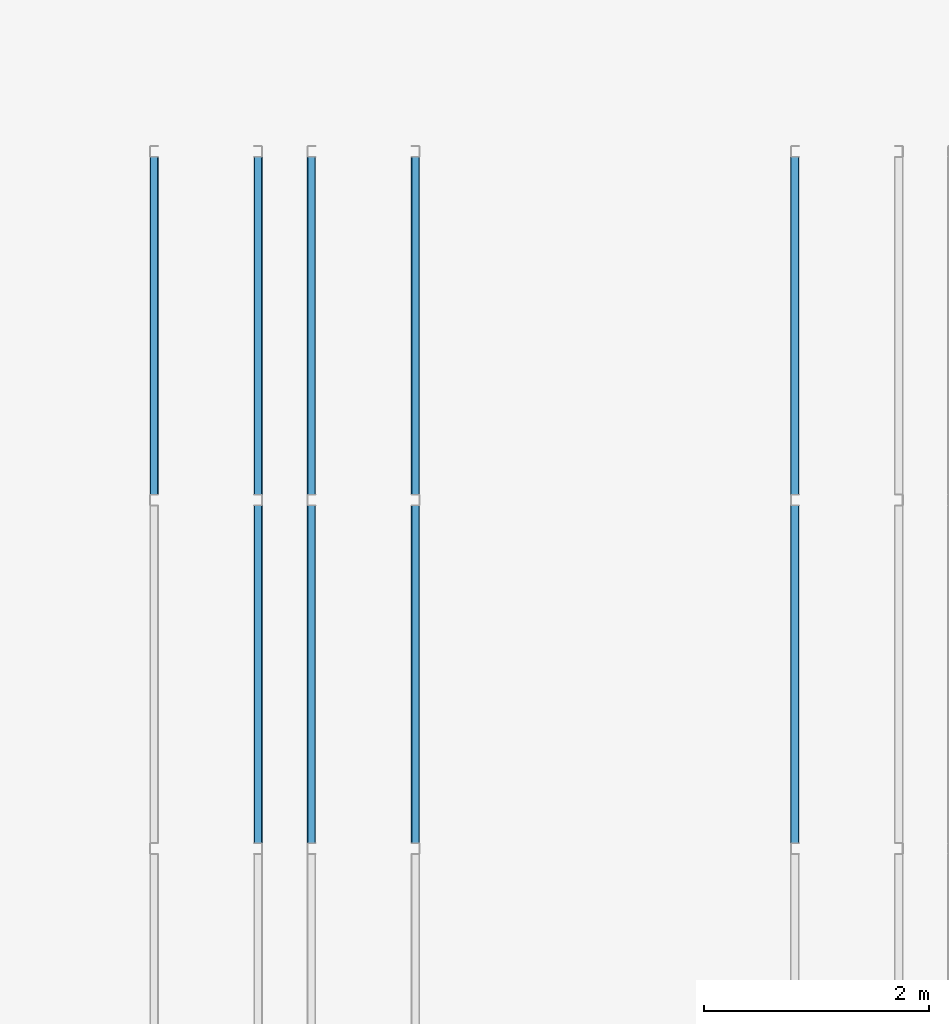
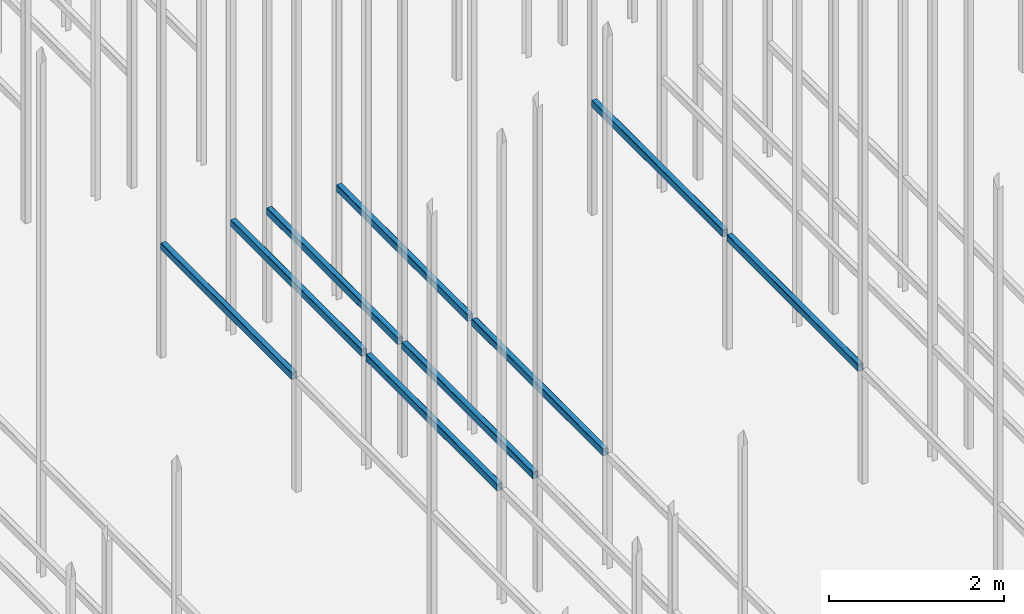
# One storey, part 151 of 302: 9 beams.
"""IFC2X3 building model written with IfcOpenShell, lengths in metres."""

import ifcopenshell
import ifcopenshell.guid

model = None  # the IFC model being written
_history = None  # IfcOwnerHistory: only IFC2X3 demands one
_inside = {}  # id of a spatial element -> (the spatial element, [elements in it])
_under = {}  # id of a project, library or spatial element -> (it, [spatial elements below it])
_declared = {}  # id of a project -> (the project, [libraries it declares])
_typed = {}  # id of a type object -> (the type object, [elements of that type])
_made_of = {}  # id of a material, layer set ... -> (it, [elements and type objects made of it])


def new_model(schema):
    """Start an empty IFC model of exactly this schema.

    Asked for "IFC4X3", IfcOpenShell would pick the latest addendum, in which some entities
    have other attributes; the version numbers below select the first issue.
    IFC2X3 requires an IfcOwnerHistory on every rooted entity: one is made here for all.
    """
    global model, _history
    if schema == "IFC4X3":
        model = ifcopenshell.file(schema_version=(4, 3, 0, 0))
    else:
        model = ifcopenshell.file(schema=schema)
    _inside.clear()
    _under.clear()
    _declared.clear()
    _typed.clear()
    _made_of.clear()
    _history = None
    if model.schema == "IFC2X3":
        org = make("IfcOrganization", Name="unknown")
        user = make(
            "IfcPersonAndOrganization",
            ThePerson=make("IfcPerson", FamilyName="unknown"),
            TheOrganization=org,
        )
        app = make(
            "IfcApplication",
            ApplicationDeveloper=org,
            Version="unknown",
            ApplicationFullName="unknown",
            ApplicationIdentifier="unknown",
        )
        _history = make(
            "IfcOwnerHistory",
            OwningUser=user,
            OwningApplication=app,
            ChangeAction="ADDED",
            CreationDate=0,
        )
    return model


def make(cls, **values):
    """One entity of the class cls with the attributes given. An attribute that is None is left unset."""
    return model.create_entity(
        cls, **{name: value for name, value in values.items() if value is not None}
    )


def entity(cls, *values):
    """Any entity or typed value of the class cls, its attributes in the order of the schema. None: left unset."""
    e = model.create_entity(cls)
    for i, value in enumerate(values):
        if value is not None:
            e[i] = value
    return e


def rooted(cls, **values):
    """An entity with a GlobalId (a new one), such as an element, a storey or a relation."""
    return make(cls, GlobalId=ifcopenshell.guid.new(), OwnerHistory=_history, **values)


def si_unit(unit_type, name, prefix=None):
    """IfcSIUnit, for example si_unit("LENGTHUNIT", "METRE", prefix="MILLI")."""
    return make("IfcSIUnit", UnitType=unit_type, Prefix=prefix, Name=name)


def converted_unit(unit_type, name, factor, base, dimensions=None, offset=None):
    """IfcConversionBasedUnit, such as the inch: factor (a typed value) times the base unit."""
    return make(
        "IfcConversionBasedUnit"
        if offset is None
        else "IfcConversionBasedUnitWithOffset",
        ConversionOffset=offset,
        Dimensions=None
        if dimensions is None
        else entity("IfcDimensionalExponents", *dimensions),
        UnitType=unit_type,
        Name=name,
        ConversionFactor=make(
            "IfcMeasureWithUnit", ValueComponent=factor, UnitComponent=base
        ),
    )


def derived_unit(unit_type, elements):
    """IfcDerivedUnit: a product of units, each with its exponent."""
    return make(
        "IfcDerivedUnit",
        Elements=[
            make("IfcDerivedUnitElement", Unit=unit, Exponent=power)
            for unit, power in elements
        ],
        UnitType=unit_type,
    )


def assignment(units):
    """IfcUnitAssignment: the units of a project."""
    return None if units is None else make("IfcUnitAssignment", Units=units)


def point(xyz):
    """IfcCartesianPoint."""
    return None if xyz is None else make("IfcCartesianPoint", Coordinates=xyz)


def direction(xyz):
    """IfcDirection."""
    return None if xyz is None else make("IfcDirection", DirectionRatios=xyz)


def frame(location, z_axis=None, x_axis=None):
    """IfcAxis2Placement3D, a coordinate frame: its origin and axes. An axis left out is left unset."""
    return make(
        "IfcAxis2Placement3D",
        Location=point(location),
        Axis=direction(z_axis),
        RefDirection=direction(x_axis),
    )


def frame_2d(location, x_axis=None):
    """IfcAxis2Placement2D, a coordinate frame in the plane: its origin and x axis."""
    return make(
        "IfcAxis2Placement2D", Location=point(location), RefDirection=direction(x_axis)
    )


def origin():
    """The frame at (0, 0, 0) with its axes left unset."""
    return frame((0.0, 0.0, 0.0))


def place(relative_to, where):
    """IfcLocalPlacement: puts the frame where relative to a parent placement (None: the world)."""
    return make(
        "IfcLocalPlacement", PlacementRelTo=relative_to, RelativePlacement=where
    )


def context(
    kind, dimensions, precision=None, world=None, true_north=None, identifier=None
):
    """IfcGeometricRepresentationContext, for example the 3D "Model" context."""
    return make(
        "IfcGeometricRepresentationContext",
        ContextIdentifier=identifier,
        ContextType=kind,
        CoordinateSpaceDimension=dimensions,
        Precision=precision,
        WorldCoordinateSystem=world,
        TrueNorth=true_north,
    )


def subcontext(parent, identifier, kind, view, scale=None):
    """IfcGeometricRepresentationSubContext, for example "Body" below "Model"."""
    return make(
        "IfcGeometricRepresentationSubContext",
        ContextIdentifier=identifier,
        ContextType=kind,
        ParentContext=parent,
        TargetScale=scale,
        TargetView=view,
    )


def project(units=None, contexts=None):
    """IfcProject with its units and contexts."""
    return rooted(
        "IfcProject",
        Name="project",
        RepresentationContexts=contexts,
        UnitsInContext=assignment(units),
    )


def spatial(cls, under=None, at=None, **own):
    """A site, building, storey or space (cls), placed at a placement, below another one or the project."""
    s = rooted(cls, ObjectPlacement=at, **own)
    if under is not None:
        _under.setdefault(under.id(), (under, []))[1].append(s)
    return s


def polyline(points):
    """IfcPolyline through the points."""
    return make("IfcPolyline", Points=[point(p) for p in points])


def circle_curve(where, radius):
    """IfcCircle in the frame where."""
    return make("IfcCircle", Position=where, Radius=radius)


def parameter(value):
    """IfcParameterValue: where a trimmed curve begins or ends, as a parameter of its basis curve."""
    return model.create_entity("IfcParameterValue", value)


def trimmed(basis, trim1, trim2, sense, master):
    """IfcTrimmedCurve: the piece of a basis curve between two trims."""
    return make(
        "IfcTrimmedCurve",
        BasisCurve=basis,
        Trim1=trim1,
        Trim2=trim2,
        SenseAgreement=sense,
        MasterRepresentation=master,
    )


def segment(curve, same_sense, transition):
    """IfcCompositeCurveSegment."""
    return make(
        "IfcCompositeCurveSegment",
        Transition=transition,
        SameSense=same_sense,
        ParentCurve=curve,
    )


def composite_curve(segments, self_intersect=None):
    """IfcCompositeCurve: segments joined end to end."""
    return make("IfcCompositeCurve", Segments=segments, SelfIntersect=self_intersect)


def outline(outer, holes=None, kind="AREA"):
    """IfcArbitraryClosedProfileDef: a profile drawn as a closed curve; with holes, ...WithVoids."""
    if holes is None:
        return make("IfcArbitraryClosedProfileDef", ProfileType=kind, OuterCurve=outer)
    return make(
        "IfcArbitraryProfileDefWithVoids",
        ProfileType=kind,
        OuterCurve=outer,
        InnerCurves=holes,
    )


def extrude(swept, where, along, depth):
    """IfcExtrudedAreaSolid: the profile swept, set in the frame where, extruded along a direction by depth."""
    return make(
        "IfcExtrudedAreaSolid",
        SweptArea=swept,
        Position=where,
        ExtrudedDirection=direction(along),
        Depth=depth,
    )


def shape(context_of_items, identifier, shape_type, items):
    """IfcShapeRepresentation: the items that make up one representation, for example the "Body"."""
    return make(
        "IfcShapeRepresentation",
        ContextOfItems=context_of_items,
        RepresentationIdentifier=identifier,
        RepresentationType=shape_type,
        Items=items,
    )


def material(Name=None, Category=None):
    """IfcMaterial."""
    return make("IfcMaterial", Name=Name, Category=Category)


def made_of(thing, what):
    """Note that an element or type object is made of a material, layer set ...; save() writes the relation."""
    if what is not None:
        _made_of.setdefault(what.id(), (what, []))[1].append(thing)
    return thing


def type_object(cls, material=None, **own):
    """A type object (cls), such as IfcWallType, which elements share."""
    return made_of(rooted(cls, **own), material)


def element(
    cls,
    number,
    at=None,
    inside=None,
    cuts=None,
    type_object=None,
    material=None,
    context=None,
    identifier="Body",
    shape_type=None,
    held_by="IfcProductDefinitionShape",
    body=None,
    shapes=None,
    **own,
):
    """One element of the class cls, such as IfcWall. Its Tag is "e" and its number.

    at: its placement. inside: the storey or other place that contains it. cuts: it is an
    opening in that element (IfcRelVoidsElement). A single representation is given by context,
    identifier, shape_type and body (its items); several are given by shapes. held_by: the class
    of the entity that holds the representations. save() writes the other relations.
    """
    e = rooted(cls, Tag="e%d" % number, ObjectPlacement=at, **own)
    if body is not None:
        shapes = [shape(context, identifier, shape_type, body)]
    if shapes is not None:
        e.Representation = make(held_by, Representations=shapes)
    if inside is not None:
        _inside.setdefault(inside.id(), (inside, []))[1].append(e)
    if cuts is not None:
        rooted(
            "IfcRelVoidsElement", RelatingBuildingElement=cuts, RelatedOpeningElement=e
        )
    if type_object is not None:
        _typed.setdefault(type_object.id(), (type_object, []))[1].append(e)
    return made_of(e, material)


def aggregate(whole, parts):
    """IfcRelAggregates: a whole, such as a stair, and the parts it consists of."""
    return rooted("IfcRelAggregates", RelatingObject=whole, RelatedObjects=parts)


def save(model, path):
    """Write the relations noted so far, then the file.

    IfcRelAggregates (storeys below a building ...), IfcRelContainedInSpatialStructure (elements
    in a storey), IfcRelDefinesByType, IfcRelAssociatesMaterial and IfcRelDeclares: one each for
    every whole, place, type object, material and project.
    """
    for whole, parts in _under.values():
        aggregate(whole, parts)
    for where, things in _inside.values():
        rooted(
            "IfcRelContainedInSpatialStructure",
            RelatedElements=things,
            RelatingStructure=where,
        )
    for kind, things in _typed.values():
        rooted("IfcRelDefinesByType", RelatedObjects=things, RelatingType=kind)
    for what, things in _made_of.values():
        rooted("IfcRelAssociatesMaterial", RelatedObjects=things, RelatingMaterial=what)
    for by, libraries in _declared.values():
        rooted("IfcRelDeclares", RelatingContext=by, RelatedDefinitions=libraries)
    model.write(path)


model = new_model("IFC2X3")

# Units and contexts
model_context = context("Model", 3, precision=1e-05, world=origin(), true_north=direction((6.12303176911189e-17, 1.0)))
body_context = subcontext(model_context, "Body", "Model", "MODEL_VIEW")
ifc_project = project(units=[si_unit("LENGTHUNIT", "METRE"), si_unit("AREAUNIT", "SQUARE_METRE"), si_unit("VOLUMEUNIT", "CUBIC_METRE"), converted_unit("PLANEANGLEUNIT", "DEGREE", entity("IfcRatioMeasure", 0.0174532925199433), si_unit("PLANEANGLEUNIT", "RADIAN"), dimensions=[0, 0, 0, 0, 0, 0, 0]), si_unit("MASSUNIT", "GRAM", prefix="KILO"), derived_unit("MASSDENSITYUNIT", [(si_unit("MASSUNIT", "GRAM", prefix="KILO"), 1), (si_unit("LENGTHUNIT", "METRE"), -3)]), derived_unit("MOMENTOFINERTIAUNIT", [(si_unit("LENGTHUNIT", "METRE"), 4)]), si_unit("TIMEUNIT", "SECOND"), si_unit("FREQUENCYUNIT", "HERTZ"), si_unit("THERMODYNAMICTEMPERATUREUNIT", "DEGREE_CELSIUS"), derived_unit("THERMALTRANSMITTANCEUNIT", [(si_unit("MASSUNIT", "GRAM", prefix="KILO"), 1), (si_unit("THERMODYNAMICTEMPERATUREUNIT", "KELVIN"), -1), (si_unit("TIMEUNIT", "SECOND"), -3)]), derived_unit("VOLUMETRICFLOWRATEUNIT", [(si_unit("LENGTHUNIT", "METRE"), 3), (si_unit("TIMEUNIT", "SECOND"), -1)]), si_unit("ELECTRICCURRENTUNIT", "AMPERE"), si_unit("ELECTRICVOLTAGEUNIT", "VOLT"), si_unit("POWERUNIT", "WATT"), si_unit("FORCEUNIT", "NEWTON", prefix="KILO"), si_unit("ILLUMINANCEUNIT", "LUX"), si_unit("LUMINOUSFLUXUNIT", "LUMEN"), si_unit("LUMINOUSINTENSITYUNIT", "CANDELA"), derived_unit("USERDEFINED", [(si_unit("MASSUNIT", "GRAM", prefix="KILO"), -1), (si_unit("LENGTHUNIT", "METRE"), -2), (si_unit("TIMEUNIT", "SECOND"), 3), (si_unit("LUMINOUSFLUXUNIT", "LUMEN"), 1)]), derived_unit("LINEARVELOCITYUNIT", [(si_unit("LENGTHUNIT", "METRE"), 1), (si_unit("TIMEUNIT", "SECOND"), -1)]), si_unit("PRESSUREUNIT", "PASCAL"), derived_unit("USERDEFINED", [(si_unit("LENGTHUNIT", "METRE"), -2), (si_unit("MASSUNIT", "GRAM", prefix="KILO"), 1), (si_unit("TIMEUNIT", "SECOND"), -2)]), derived_unit("LINEARFORCEUNIT", [(si_unit("MASSUNIT", "GRAM", prefix="KILO"), 1), (si_unit("LENGTHUNIT", "METRE"), 1), (si_unit("TIMEUNIT", "SECOND"), -2), (si_unit("LENGTHUNIT", "METRE"), -1)]), derived_unit("PLANARFORCEUNIT", [(si_unit("MASSUNIT", "GRAM", prefix="KILO"), 1), (si_unit("LENGTHUNIT", "METRE"), 1), (si_unit("TIMEUNIT", "SECOND"), -2), (si_unit("LENGTHUNIT", "METRE"), -2)])], contexts=[model_context])

# Site, building, storey
site_placement = place(None, origin())
site = spatial("IfcSite", under=ifc_project, at=site_placement, Name="Default", CompositionType="ELEMENT")
building_placement = place(site_placement, origin())
building = spatial("IfcBuilding", under=site, at=building_placement, CompositionType="ELEMENT")
storey_placement = place(building_placement, frame((0.0, 0.0, -1.3)))
storey = spatial("IfcBuildingStorey", under=building, at=storey_placement, Name="00_EG", CompositionType="ELEMENT", Elevation=-1.3)

# Beams
ifc_material = material(Name="Metall - Baustahl S235 blau")
beam_type = type_object("IfcBeamType", Name="RHS Träger (EN 10219-2):RHS 100 x 75 x 5", PredefinedType="NOTDEFINED")
beam_1_placement = place(storey_placement, frame((-189.865111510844, 39.548088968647, 2.885), z_axis=(0.0, 0.0, 1.0), x_axis=(0.0, 1.0, 0.0)))
element("IfcBeam", 1, at=beam_1_placement, inside=storey, type_object=beam_type, material=ifc_material, Name="RHS Träger (EN 10219-2):RHS 100 x 75 x 5", ObjectType="RHS Träger (EN 10219-2):RHS 100 x 75 x 5", context=body_context, shape_type="SweptSolid", body=[
    extrude(outline(composite_curve([segment(polyline([(-0.0399999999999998, -0.0375000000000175), (0.0400000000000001, -0.0375000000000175)]), True, "CONTINUOUS"), segment(trimmed(circle_curve(frame_2d((0.0399999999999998, -0.0275000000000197), x_axis=(0.0, 1.0)), 0.01), [parameter(180.0)], [parameter(270.0)], True, "PARAMETER"), True, "CONTINUOUS"), segment(polyline([(0.05, -0.0275000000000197), (0.05, 0.0274999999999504)]), True, "CONTINUOUS"), segment(trimmed(circle_curve(frame_2d((0.0399999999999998, 0.0274999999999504), x_axis=(0.0, 1.0)), 0.01), [parameter(270.0)], [parameter(4.07110999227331e-13)], True, "PARAMETER"), True, "CONTINUOUS"), segment(polyline([(0.0400000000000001, 0.0374999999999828), (-0.0399999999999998, 0.0374999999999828)]), True, "CONTINUOUS"), segment(trimmed(circle_curve(frame_2d((-0.0400000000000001, 0.0274999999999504), x_axis=(0.0, 1.0)), 0.01), [parameter(360.0)], [parameter(90.0000000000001)], True, "PARAMETER"), True, "CONTINUOUS"), segment(polyline([(-0.05, 0.0274999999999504), (-0.05, -0.0275000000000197)]), True, "CONTINUOUS"), segment(trimmed(circle_curve(frame_2d((-0.0400000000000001, -0.0275000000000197), x_axis=(0.0, 1.0)), 0.01), [parameter(90.0000000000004)], [parameter(180.0)], True, "PARAMETER"), True, "CONTINUOUS")], self_intersect=False), holes=[composite_curve([segment(trimmed(circle_curve(frame_2d((-0.0400000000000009, 0.0274999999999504), x_axis=(0.0, 1.0)), 0.005), [parameter(360.0)], [parameter(89.9999999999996)], True, "PARAMETER"), False, "CONTINUOUS"), segment(polyline([(-0.0400000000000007, 0.0324999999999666), (0.0399999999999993, 0.0324999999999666)]), True, "CONTINUOUS"), segment(trimmed(circle_curve(frame_2d((0.039999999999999, 0.0274999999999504), x_axis=(0.0, 1.0)), 0.005), [parameter(270.0)], [parameter(0.0)], True, "PARAMETER"), False, "CONTINUOUS"), segment(polyline([(0.0449999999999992, 0.0274999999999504), (0.0449999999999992, -0.0275000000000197)]), True, "CONTINUOUS"), segment(trimmed(circle_curve(frame_2d((0.039999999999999, -0.0275000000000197), x_axis=(0.0, 1.0)), 0.005), [parameter(180.0)], [parameter(269.999999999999)], True, "PARAMETER"), False, "CONTINUOUS"), segment(polyline([(0.0399999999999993, -0.0325000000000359), (-0.0400000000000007, -0.0325000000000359)]), True, "CONTINUOUS"), segment(trimmed(circle_curve(frame_2d((-0.0400000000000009, -0.0275000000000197), x_axis=(0.0, 1.0)), 0.005), [parameter(90.0000000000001)], [parameter(180.0)], True, "PARAMETER"), False, "CONTINUOUS"), segment(polyline([(-0.0450000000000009, -0.0275000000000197), (-0.0450000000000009, 0.0274999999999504)]), True, "CONTINUOUS")], self_intersect=False)]), frame((0.000100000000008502, -0.0374999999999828, -0.0500000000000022), z_axis=(1.0, 0.0, 0.0), x_axis=(0.0, 0.0, -1.0)), (0.0, 0.0, 1.0), 2.99979999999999),
])
beam_2_placement = place(storey_placement, frame((-189.315111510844, 39.548088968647, 2.885), z_axis=(0.0, 0.0, 1.0), x_axis=(0.0, 1.0, 0.0)))
element("IfcBeam", 2, at=beam_2_placement, inside=storey, type_object=beam_type, material=ifc_material, Name="RHS Träger (EN 10219-2):RHS 100 x 75 x 5", ObjectType="RHS Träger (EN 10219-2):RHS 100 x 75 x 5", context=body_context, shape_type="SweptSolid", body=[
    extrude(outline(composite_curve([segment(trimmed(circle_curve(frame_2d((-0.0274999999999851, -0.0400000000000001), x_axis=(1.0, 0.0)), 0.01), [parameter(180.0)], [parameter(270.0)], True, "PARAMETER"), True, "CONTINUOUS"), segment(polyline([(-0.0274999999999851, -0.05), (0.0274999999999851, -0.05)]), True, "CONTINUOUS"), segment(trimmed(circle_curve(frame_2d((0.0274999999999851, -0.0400000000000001), x_axis=(1.0, 0.0)), 0.01), [parameter(270.0)], [parameter(5.08888749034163e-14)], True, "PARAMETER"), True, "CONTINUOUS"), segment(polyline([(0.0375000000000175, -0.0399999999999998), (0.0375000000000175, 0.0400000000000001)]), True, "CONTINUOUS"), segment(trimmed(circle_curve(frame_2d((0.0274999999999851, 0.0399999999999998), x_axis=(1.0, 0.0)), 0.01), [parameter(360.0)], [parameter(89.9999999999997)], True, "PARAMETER"), True, "CONTINUOUS"), segment(polyline([(0.0274999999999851, 0.05), (-0.0274999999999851, 0.05)]), True, "CONTINUOUS"), segment(trimmed(circle_curve(frame_2d((-0.0274999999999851, 0.0399999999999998), x_axis=(1.0, 0.0)), 0.01), [parameter(90.0000000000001)], [parameter(180.0)], True, "PARAMETER"), True, "CONTINUOUS"), segment(polyline([(-0.0374999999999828, 0.0400000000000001), (-0.0374999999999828, -0.0399999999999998)]), True, "CONTINUOUS")], self_intersect=False), holes=[composite_curve([segment(polyline([(0.0274999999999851, -0.0450000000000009), (-0.0274999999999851, -0.0450000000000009)]), True, "CONTINUOUS"), segment(trimmed(circle_curve(frame_2d((-0.0274999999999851, -0.0400000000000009), x_axis=(1.0, 0.0)), 0.005), [parameter(180.0)], [parameter(270.0)], True, "PARAMETER"), False, "CONTINUOUS"), segment(polyline([(-0.0325000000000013, -0.0400000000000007), (-0.0325000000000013, 0.0399999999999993)]), True, "CONTINUOUS"), segment(trimmed(circle_curve(frame_2d((-0.0274999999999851, 0.039999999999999), x_axis=(1.0, 0.0)), 0.005), [parameter(90.0000000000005)], [parameter(180.0)], True, "PARAMETER"), False, "CONTINUOUS"), segment(polyline([(-0.0274999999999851, 0.0449999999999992), (0.0274999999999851, 0.0449999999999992)]), True, "CONTINUOUS"), segment(trimmed(circle_curve(frame_2d((0.0274999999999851, 0.039999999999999), x_axis=(1.0, 0.0)), 0.005), [parameter(0.0)], [parameter(90.0000000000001)], True, "PARAMETER"), False, "CONTINUOUS"), segment(polyline([(0.0325000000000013, 0.0399999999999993), (0.0325000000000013, -0.0400000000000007)]), True, "CONTINUOUS"), segment(trimmed(circle_curve(frame_2d((0.0274999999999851, -0.0400000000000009), x_axis=(1.0, 0.0)), 0.005), [parameter(270.0)], [parameter(4.07110999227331e-13)], True, "PARAMETER"), False, "CONTINUOUS")], self_intersect=False)]), frame((9.99999999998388e-05, 0.0375000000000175, -0.0500000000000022), z_axis=(1.0, 0.0, 0.0), x_axis=(0.0, -1.0, 0.0)), (0.0, 0.0, 1.0), 2.99979999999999),
])
beam_3_placement = place(storey_placement, frame((-188.465111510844, 39.548088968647, 2.885), z_axis=(0.0, 0.0, 1.0), x_axis=(0.0, 1.0, 0.0)))
element("IfcBeam", 3, at=beam_3_placement, inside=storey, type_object=beam_type, material=ifc_material, Name="RHS Träger (EN 10219-2):RHS 100 x 75 x 5", ObjectType="RHS Träger (EN 10219-2):RHS 100 x 75 x 5", context=body_context, shape_type="SweptSolid", body=[
    extrude(outline(composite_curve([segment(polyline([(-0.0399999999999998, -0.0374999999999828), (0.0400000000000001, -0.0374999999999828)]), True, "CONTINUOUS"), segment(trimmed(circle_curve(frame_2d((0.0399999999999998, -0.0274999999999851), x_axis=(0.0, 1.0)), 0.01), [parameter(180.0)], [parameter(270.0)], True, "PARAMETER"), True, "CONTINUOUS"), segment(polyline([(0.05, -0.0274999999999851), (0.05, 0.0274999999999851)]), True, "CONTINUOUS"), segment(trimmed(circle_curve(frame_2d((0.0399999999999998, 0.0274999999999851), x_axis=(0.0, 1.0)), 0.01), [parameter(270.0)], [parameter(4.07110999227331e-13)], True, "PARAMETER"), True, "CONTINUOUS"), segment(polyline([(0.0400000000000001, 0.0375000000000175), (-0.0399999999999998, 0.0375000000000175)]), True, "CONTINUOUS"), segment(trimmed(circle_curve(frame_2d((-0.0400000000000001, 0.0274999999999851), x_axis=(0.0, 1.0)), 0.01), [parameter(360.0)], [parameter(90.0000000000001)], True, "PARAMETER"), True, "CONTINUOUS"), segment(polyline([(-0.05, 0.0274999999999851), (-0.05, -0.0274999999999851)]), True, "CONTINUOUS"), segment(trimmed(circle_curve(frame_2d((-0.0400000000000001, -0.0274999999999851), x_axis=(0.0, 1.0)), 0.01), [parameter(90.0000000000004)], [parameter(180.0)], True, "PARAMETER"), True, "CONTINUOUS")], self_intersect=False), holes=[composite_curve([segment(trimmed(circle_curve(frame_2d((-0.0400000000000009, 0.0274999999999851), x_axis=(0.0, 1.0)), 0.005), [parameter(360.0)], [parameter(89.9999999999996)], True, "PARAMETER"), False, "CONTINUOUS"), segment(polyline([(-0.0400000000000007, 0.0325000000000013), (0.0399999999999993, 0.0325000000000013)]), True, "CONTINUOUS"), segment(trimmed(circle_curve(frame_2d((0.039999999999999, 0.0274999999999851), x_axis=(0.0, 1.0)), 0.005), [parameter(270.0)], [parameter(0.0)], True, "PARAMETER"), False, "CONTINUOUS"), segment(polyline([(0.0449999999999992, 0.0274999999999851), (0.0449999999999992, -0.0274999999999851)]), True, "CONTINUOUS"), segment(trimmed(circle_curve(frame_2d((0.039999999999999, -0.0274999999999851), x_axis=(0.0, 1.0)), 0.005), [parameter(180.0)], [parameter(269.999999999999)], True, "PARAMETER"), False, "CONTINUOUS"), segment(polyline([(0.0399999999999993, -0.0325000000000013), (-0.0400000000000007, -0.0325000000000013)]), True, "CONTINUOUS"), segment(trimmed(circle_curve(frame_2d((-0.0400000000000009, -0.0274999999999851), x_axis=(0.0, 1.0)), 0.005), [parameter(90.0000000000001)], [parameter(180.0)], True, "PARAMETER"), False, "CONTINUOUS"), segment(polyline([(-0.0450000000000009, -0.0274999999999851), (-0.0450000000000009, 0.0274999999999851)]), True, "CONTINUOUS")], self_intersect=False)]), frame((0.000100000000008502, -0.0375000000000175, -0.0500000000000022), z_axis=(1.0, 0.0, 0.0), x_axis=(0.0, 0.0, -1.0)), (0.0, 0.0, 1.0), 2.99979999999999),
])
beam_4_placement = place(storey_placement, frame((-185.015111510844, 39.548088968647, 2.885), z_axis=(0.0, 0.0, 1.0), x_axis=(0.0, 1.0, 0.0)))
element("IfcBeam", 4, at=beam_4_placement, inside=storey, type_object=beam_type, material=ifc_material, Name="RHS Träger (EN 10219-2):RHS 100 x 75 x 5", ObjectType="RHS Träger (EN 10219-2):RHS 100 x 75 x 5", context=body_context, shape_type="SweptSolid", body=[
    extrude(outline(composite_curve([segment(trimmed(circle_curve(frame_2d((-0.0274999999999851, -0.0400000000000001), x_axis=(1.0, 0.0)), 0.01), [parameter(180.0)], [parameter(270.0)], True, "PARAMETER"), True, "CONTINUOUS"), segment(polyline([(-0.0274999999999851, -0.05), (0.0274999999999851, -0.05)]), True, "CONTINUOUS"), segment(trimmed(circle_curve(frame_2d((0.0274999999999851, -0.0400000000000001), x_axis=(1.0, 0.0)), 0.01), [parameter(270.0)], [parameter(5.08888749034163e-14)], True, "PARAMETER"), True, "CONTINUOUS"), segment(polyline([(0.0375000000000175, -0.0399999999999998), (0.0375000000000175, 0.0400000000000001)]), True, "CONTINUOUS"), segment(trimmed(circle_curve(frame_2d((0.0274999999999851, 0.0399999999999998), x_axis=(1.0, 0.0)), 0.01), [parameter(360.0)], [parameter(89.9999999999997)], True, "PARAMETER"), True, "CONTINUOUS"), segment(polyline([(0.0274999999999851, 0.05), (-0.0274999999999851, 0.05)]), True, "CONTINUOUS"), segment(trimmed(circle_curve(frame_2d((-0.0274999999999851, 0.0399999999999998), x_axis=(1.0, 0.0)), 0.01), [parameter(90.0000000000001)], [parameter(180.0)], True, "PARAMETER"), True, "CONTINUOUS"), segment(polyline([(-0.0374999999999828, 0.0400000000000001), (-0.0374999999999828, -0.0399999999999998)]), True, "CONTINUOUS")], self_intersect=False), holes=[composite_curve([segment(polyline([(0.0274999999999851, -0.0450000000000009), (-0.0274999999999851, -0.0450000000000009)]), True, "CONTINUOUS"), segment(trimmed(circle_curve(frame_2d((-0.0274999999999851, -0.0400000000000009), x_axis=(1.0, 0.0)), 0.005), [parameter(180.0)], [parameter(270.0)], True, "PARAMETER"), False, "CONTINUOUS"), segment(polyline([(-0.0325000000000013, -0.0400000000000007), (-0.0325000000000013, 0.0399999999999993)]), True, "CONTINUOUS"), segment(trimmed(circle_curve(frame_2d((-0.0274999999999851, 0.039999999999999), x_axis=(1.0, 0.0)), 0.005), [parameter(90.0000000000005)], [parameter(180.0)], True, "PARAMETER"), False, "CONTINUOUS"), segment(polyline([(-0.0274999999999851, 0.0449999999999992), (0.0274999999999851, 0.0449999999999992)]), True, "CONTINUOUS"), segment(trimmed(circle_curve(frame_2d((0.0274999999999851, 0.039999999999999), x_axis=(1.0, 0.0)), 0.005), [parameter(0.0)], [parameter(90.0000000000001)], True, "PARAMETER"), False, "CONTINUOUS"), segment(polyline([(0.0325000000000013, 0.0399999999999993), (0.0325000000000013, -0.0400000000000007)]), True, "CONTINUOUS"), segment(trimmed(circle_curve(frame_2d((0.0274999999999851, -0.0400000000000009), x_axis=(1.0, 0.0)), 0.005), [parameter(270.0)], [parameter(4.07110999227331e-13)], True, "PARAMETER"), False, "CONTINUOUS")], self_intersect=False)]), frame((0.000100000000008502, 0.0375000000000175, -0.0500000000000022), z_axis=(1.0, 0.0, 0.0), x_axis=(0.0, -1.0, 0.0)), (0.0, 0.0, 1.0), 2.99979999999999),
])
beam_5_placement = place(storey_placement, frame((-190.715111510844, 42.648088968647, 2.885), z_axis=(0.0, 0.0, 1.0), x_axis=(0.0, 1.0, 0.0)))
element("IfcBeam", 5, at=beam_5_placement, inside=storey, type_object=beam_type, material=ifc_material, Name="RHS Träger (EN 10219-2):RHS 100 x 75 x 5", ObjectType="RHS Träger (EN 10219-2):RHS 100 x 75 x 5", context=body_context, shape_type="SweptSolid", body=[
    extrude(outline(composite_curve([segment(trimmed(circle_curve(frame_2d((-0.0274999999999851, -0.0400000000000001), x_axis=(1.0, 0.0)), 0.01), [parameter(180.0)], [parameter(270.0)], True, "PARAMETER"), True, "CONTINUOUS"), segment(polyline([(-0.0274999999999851, -0.05), (0.0274999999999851, -0.05)]), True, "CONTINUOUS"), segment(trimmed(circle_curve(frame_2d((0.0274999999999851, -0.0400000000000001), x_axis=(1.0, 0.0)), 0.01), [parameter(270.0)], [parameter(5.08888749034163e-14)], True, "PARAMETER"), True, "CONTINUOUS"), segment(polyline([(0.0375000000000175, -0.0399999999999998), (0.0375000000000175, 0.0400000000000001)]), True, "CONTINUOUS"), segment(trimmed(circle_curve(frame_2d((0.0274999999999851, 0.0399999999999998), x_axis=(1.0, 0.0)), 0.01), [parameter(360.0)], [parameter(89.9999999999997)], True, "PARAMETER"), True, "CONTINUOUS"), segment(polyline([(0.0274999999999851, 0.05), (-0.0274999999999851, 0.05)]), True, "CONTINUOUS"), segment(trimmed(circle_curve(frame_2d((-0.0274999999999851, 0.0399999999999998), x_axis=(1.0, 0.0)), 0.01), [parameter(90.0000000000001)], [parameter(180.0)], True, "PARAMETER"), True, "CONTINUOUS"), segment(polyline([(-0.0374999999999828, 0.0400000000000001), (-0.0374999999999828, -0.0399999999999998)]), True, "CONTINUOUS")], self_intersect=False), holes=[composite_curve([segment(polyline([(0.0274999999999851, -0.0450000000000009), (-0.0274999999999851, -0.0450000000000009)]), True, "CONTINUOUS"), segment(trimmed(circle_curve(frame_2d((-0.0274999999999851, -0.0400000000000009), x_axis=(1.0, 0.0)), 0.005), [parameter(180.0)], [parameter(270.0)], True, "PARAMETER"), False, "CONTINUOUS"), segment(polyline([(-0.0325000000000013, -0.0400000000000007), (-0.0325000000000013, 0.0399999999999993)]), True, "CONTINUOUS"), segment(trimmed(circle_curve(frame_2d((-0.0274999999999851, 0.039999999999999), x_axis=(1.0, 0.0)), 0.005), [parameter(90.0000000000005)], [parameter(180.0)], True, "PARAMETER"), False, "CONTINUOUS"), segment(polyline([(-0.0274999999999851, 0.0449999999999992), (0.0274999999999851, 0.0449999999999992)]), True, "CONTINUOUS"), segment(trimmed(circle_curve(frame_2d((0.0274999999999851, 0.039999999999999), x_axis=(1.0, 0.0)), 0.005), [parameter(0.0)], [parameter(90.0000000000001)], True, "PARAMETER"), False, "CONTINUOUS"), segment(polyline([(0.0325000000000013, 0.0399999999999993), (0.0325000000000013, -0.0400000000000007)]), True, "CONTINUOUS"), segment(trimmed(circle_curve(frame_2d((0.0274999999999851, -0.0400000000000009), x_axis=(1.0, 0.0)), 0.005), [parameter(270.0)], [parameter(4.07110999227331e-13)], True, "PARAMETER"), False, "CONTINUOUS")], self_intersect=False)]), frame((0.000100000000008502, 0.0375000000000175, -0.0500000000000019), z_axis=(1.0, 0.0, 0.0), x_axis=(0.0, -1.0, 0.0)), (0.0, 0.0, 1.0), 2.99979999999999),
])
beam_6_placement = place(storey_placement, frame((-189.865111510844, 42.648088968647, 2.885), z_axis=(0.0, 0.0, 1.0), x_axis=(0.0, 1.0, 0.0)))
element("IfcBeam", 6, at=beam_6_placement, inside=storey, type_object=beam_type, material=ifc_material, Name="RHS Träger (EN 10219-2):RHS 100 x 75 x 5", ObjectType="RHS Träger (EN 10219-2):RHS 100 x 75 x 5", context=body_context, shape_type="SweptSolid", body=[
    extrude(outline(composite_curve([segment(polyline([(-0.0399999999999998, -0.0375000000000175), (0.0400000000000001, -0.0375000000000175)]), True, "CONTINUOUS"), segment(trimmed(circle_curve(frame_2d((0.0399999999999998, -0.0275000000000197), x_axis=(0.0, 1.0)), 0.01), [parameter(180.0)], [parameter(270.0)], True, "PARAMETER"), True, "CONTINUOUS"), segment(polyline([(0.05, -0.0275000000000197), (0.05, 0.0274999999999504)]), True, "CONTINUOUS"), segment(trimmed(circle_curve(frame_2d((0.0399999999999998, 0.0274999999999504), x_axis=(0.0, 1.0)), 0.01), [parameter(270.0)], [parameter(4.07110999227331e-13)], True, "PARAMETER"), True, "CONTINUOUS"), segment(polyline([(0.0400000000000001, 0.0374999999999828), (-0.0399999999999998, 0.0374999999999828)]), True, "CONTINUOUS"), segment(trimmed(circle_curve(frame_2d((-0.0400000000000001, 0.0274999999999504), x_axis=(0.0, 1.0)), 0.01), [parameter(360.0)], [parameter(90.0000000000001)], True, "PARAMETER"), True, "CONTINUOUS"), segment(polyline([(-0.05, 0.0274999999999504), (-0.05, -0.0275000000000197)]), True, "CONTINUOUS"), segment(trimmed(circle_curve(frame_2d((-0.0400000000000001, -0.0275000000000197), x_axis=(0.0, 1.0)), 0.01), [parameter(90.0000000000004)], [parameter(180.0)], True, "PARAMETER"), True, "CONTINUOUS")], self_intersect=False), holes=[composite_curve([segment(trimmed(circle_curve(frame_2d((-0.0400000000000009, 0.0274999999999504), x_axis=(0.0, 1.0)), 0.005), [parameter(360.0)], [parameter(89.9999999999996)], True, "PARAMETER"), False, "CONTINUOUS"), segment(polyline([(-0.0400000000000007, 0.0324999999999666), (0.0399999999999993, 0.0324999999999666)]), True, "CONTINUOUS"), segment(trimmed(circle_curve(frame_2d((0.039999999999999, 0.0274999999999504), x_axis=(0.0, 1.0)), 0.005), [parameter(270.0)], [parameter(0.0)], True, "PARAMETER"), False, "CONTINUOUS"), segment(polyline([(0.0449999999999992, 0.0274999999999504), (0.0449999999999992, -0.0275000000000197)]), True, "CONTINUOUS"), segment(trimmed(circle_curve(frame_2d((0.039999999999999, -0.0275000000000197), x_axis=(0.0, 1.0)), 0.005), [parameter(180.0)], [parameter(269.999999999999)], True, "PARAMETER"), False, "CONTINUOUS"), segment(polyline([(0.0399999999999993, -0.0325000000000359), (-0.0400000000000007, -0.0325000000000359)]), True, "CONTINUOUS"), segment(trimmed(circle_curve(frame_2d((-0.0400000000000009, -0.0275000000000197), x_axis=(0.0, 1.0)), 0.005), [parameter(90.0000000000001)], [parameter(180.0)], True, "PARAMETER"), False, "CONTINUOUS"), segment(polyline([(-0.0450000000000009, -0.0275000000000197), (-0.0450000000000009, 0.0274999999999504)]), True, "CONTINUOUS")], self_intersect=False)]), frame((0.000100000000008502, -0.0374999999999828, -0.0500000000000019), z_axis=(1.0, 0.0, 0.0), x_axis=(0.0, 0.0, -1.0)), (0.0, 0.0, 1.0), 2.99979999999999),
])
beam_7_placement = place(storey_placement, frame((-189.315111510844, 42.648088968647, 2.885), z_axis=(0.0, 0.0, 1.0), x_axis=(0.0, 1.0, 0.0)))
element("IfcBeam", 7, at=beam_7_placement, inside=storey, type_object=beam_type, material=ifc_material, Name="RHS Träger (EN 10219-2):RHS 100 x 75 x 5", ObjectType="RHS Träger (EN 10219-2):RHS 100 x 75 x 5", context=body_context, shape_type="SweptSolid", body=[
    extrude(outline(composite_curve([segment(trimmed(circle_curve(frame_2d((-0.0274999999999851, -0.0400000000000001), x_axis=(1.0, 0.0)), 0.01), [parameter(180.0)], [parameter(270.0)], True, "PARAMETER"), True, "CONTINUOUS"), segment(polyline([(-0.0274999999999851, -0.05), (0.0274999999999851, -0.05)]), True, "CONTINUOUS"), segment(trimmed(circle_curve(frame_2d((0.0274999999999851, -0.0400000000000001), x_axis=(1.0, 0.0)), 0.01), [parameter(270.0)], [parameter(5.08888749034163e-14)], True, "PARAMETER"), True, "CONTINUOUS"), segment(polyline([(0.0375000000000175, -0.0399999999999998), (0.0375000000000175, 0.0400000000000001)]), True, "CONTINUOUS"), segment(trimmed(circle_curve(frame_2d((0.0274999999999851, 0.0399999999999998), x_axis=(1.0, 0.0)), 0.01), [parameter(360.0)], [parameter(89.9999999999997)], True, "PARAMETER"), True, "CONTINUOUS"), segment(polyline([(0.0274999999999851, 0.05), (-0.0274999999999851, 0.05)]), True, "CONTINUOUS"), segment(trimmed(circle_curve(frame_2d((-0.0274999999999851, 0.0399999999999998), x_axis=(1.0, 0.0)), 0.01), [parameter(90.0000000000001)], [parameter(180.0)], True, "PARAMETER"), True, "CONTINUOUS"), segment(polyline([(-0.0374999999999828, 0.0400000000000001), (-0.0374999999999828, -0.0399999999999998)]), True, "CONTINUOUS")], self_intersect=False), holes=[composite_curve([segment(polyline([(0.0274999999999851, -0.0450000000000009), (-0.0274999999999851, -0.0450000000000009)]), True, "CONTINUOUS"), segment(trimmed(circle_curve(frame_2d((-0.0274999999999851, -0.0400000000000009), x_axis=(1.0, 0.0)), 0.005), [parameter(180.0)], [parameter(270.0)], True, "PARAMETER"), False, "CONTINUOUS"), segment(polyline([(-0.0325000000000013, -0.0400000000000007), (-0.0325000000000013, 0.0399999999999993)]), True, "CONTINUOUS"), segment(trimmed(circle_curve(frame_2d((-0.0274999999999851, 0.039999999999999), x_axis=(1.0, 0.0)), 0.005), [parameter(90.0000000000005)], [parameter(180.0)], True, "PARAMETER"), False, "CONTINUOUS"), segment(polyline([(-0.0274999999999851, 0.0449999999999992), (0.0274999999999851, 0.0449999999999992)]), True, "CONTINUOUS"), segment(trimmed(circle_curve(frame_2d((0.0274999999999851, 0.039999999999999), x_axis=(1.0, 0.0)), 0.005), [parameter(0.0)], [parameter(90.0000000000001)], True, "PARAMETER"), False, "CONTINUOUS"), segment(polyline([(0.0325000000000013, 0.0399999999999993), (0.0325000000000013, -0.0400000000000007)]), True, "CONTINUOUS"), segment(trimmed(circle_curve(frame_2d((0.0274999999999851, -0.0400000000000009), x_axis=(1.0, 0.0)), 0.005), [parameter(270.0)], [parameter(4.07110999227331e-13)], True, "PARAMETER"), False, "CONTINUOUS")], self_intersect=False)]), frame((0.000100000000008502, 0.0375000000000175, -0.0500000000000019), z_axis=(1.0, 0.0, 0.0), x_axis=(0.0, -1.0, 0.0)), (0.0, 0.0, 1.0), 2.99979999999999),
])
beam_8_placement = place(storey_placement, frame((-188.465111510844, 42.648088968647, 2.885), z_axis=(0.0, 0.0, 1.0), x_axis=(0.0, 1.0, 0.0)))
element("IfcBeam", 8, at=beam_8_placement, inside=storey, type_object=beam_type, material=ifc_material, Name="RHS Träger (EN 10219-2):RHS 100 x 75 x 5", ObjectType="RHS Träger (EN 10219-2):RHS 100 x 75 x 5", context=body_context, shape_type="SweptSolid", body=[
    extrude(outline(composite_curve([segment(polyline([(-0.0399999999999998, -0.0374999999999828), (0.0400000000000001, -0.0374999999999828)]), True, "CONTINUOUS"), segment(trimmed(circle_curve(frame_2d((0.0399999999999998, -0.0274999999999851), x_axis=(0.0, 1.0)), 0.01), [parameter(180.0)], [parameter(270.0)], True, "PARAMETER"), True, "CONTINUOUS"), segment(polyline([(0.05, -0.0274999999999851), (0.05, 0.0274999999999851)]), True, "CONTINUOUS"), segment(trimmed(circle_curve(frame_2d((0.0399999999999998, 0.0274999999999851), x_axis=(0.0, 1.0)), 0.01), [parameter(270.0)], [parameter(4.07110999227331e-13)], True, "PARAMETER"), True, "CONTINUOUS"), segment(polyline([(0.0400000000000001, 0.0375000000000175), (-0.0399999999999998, 0.0375000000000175)]), True, "CONTINUOUS"), segment(trimmed(circle_curve(frame_2d((-0.0400000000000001, 0.0274999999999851), x_axis=(0.0, 1.0)), 0.01), [parameter(360.0)], [parameter(90.0000000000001)], True, "PARAMETER"), True, "CONTINUOUS"), segment(polyline([(-0.05, 0.0274999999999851), (-0.05, -0.0274999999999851)]), True, "CONTINUOUS"), segment(trimmed(circle_curve(frame_2d((-0.0400000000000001, -0.0274999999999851), x_axis=(0.0, 1.0)), 0.01), [parameter(90.0000000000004)], [parameter(180.0)], True, "PARAMETER"), True, "CONTINUOUS")], self_intersect=False), holes=[composite_curve([segment(trimmed(circle_curve(frame_2d((-0.0400000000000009, 0.0274999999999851), x_axis=(0.0, 1.0)), 0.005), [parameter(360.0)], [parameter(89.9999999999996)], True, "PARAMETER"), False, "CONTINUOUS"), segment(polyline([(-0.0400000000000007, 0.0325000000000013), (0.0399999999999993, 0.0325000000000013)]), True, "CONTINUOUS"), segment(trimmed(circle_curve(frame_2d((0.039999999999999, 0.0274999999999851), x_axis=(0.0, 1.0)), 0.005), [parameter(270.0)], [parameter(0.0)], True, "PARAMETER"), False, "CONTINUOUS"), segment(polyline([(0.0449999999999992, 0.0274999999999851), (0.0449999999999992, -0.0274999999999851)]), True, "CONTINUOUS"), segment(trimmed(circle_curve(frame_2d((0.039999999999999, -0.0274999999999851), x_axis=(0.0, 1.0)), 0.005), [parameter(180.0)], [parameter(269.999999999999)], True, "PARAMETER"), False, "CONTINUOUS"), segment(polyline([(0.0399999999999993, -0.0325000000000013), (-0.0400000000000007, -0.0325000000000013)]), True, "CONTINUOUS"), segment(trimmed(circle_curve(frame_2d((-0.0400000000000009, -0.0274999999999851), x_axis=(0.0, 1.0)), 0.005), [parameter(90.0000000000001)], [parameter(180.0)], True, "PARAMETER"), False, "CONTINUOUS"), segment(polyline([(-0.0450000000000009, -0.0274999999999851), (-0.0450000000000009, 0.0274999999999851)]), True, "CONTINUOUS")], self_intersect=False)]), frame((0.000100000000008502, -0.0375000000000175, -0.0500000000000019), z_axis=(1.0, 0.0, 0.0), x_axis=(0.0, 0.0, -1.0)), (0.0, 0.0, 1.0), 2.99979999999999),
])
beam_9_placement = place(storey_placement, frame((-185.015111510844, 42.648088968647, 2.885), z_axis=(0.0, 0.0, 1.0), x_axis=(0.0, 1.0, 0.0)))
element("IfcBeam", 9, at=beam_9_placement, inside=storey, type_object=beam_type, material=ifc_material, Name="RHS Träger (EN 10219-2):RHS 100 x 75 x 5", ObjectType="RHS Träger (EN 10219-2):RHS 100 x 75 x 5", context=body_context, shape_type="SweptSolid", body=[
    extrude(outline(composite_curve([segment(trimmed(circle_curve(frame_2d((-0.0274999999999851, -0.0400000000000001), x_axis=(1.0, 0.0)), 0.01), [parameter(180.0)], [parameter(270.0)], True, "PARAMETER"), True, "CONTINUOUS"), segment(polyline([(-0.0274999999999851, -0.05), (0.0274999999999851, -0.05)]), True, "CONTINUOUS"), segment(trimmed(circle_curve(frame_2d((0.0274999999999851, -0.0400000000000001), x_axis=(1.0, 0.0)), 0.01), [parameter(270.0)], [parameter(5.08888749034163e-14)], True, "PARAMETER"), True, "CONTINUOUS"), segment(polyline([(0.0375000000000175, -0.0399999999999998), (0.0375000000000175, 0.0400000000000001)]), True, "CONTINUOUS"), segment(trimmed(circle_curve(frame_2d((0.0274999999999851, 0.0399999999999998), x_axis=(1.0, 0.0)), 0.01), [parameter(360.0)], [parameter(89.9999999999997)], True, "PARAMETER"), True, "CONTINUOUS"), segment(polyline([(0.0274999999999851, 0.05), (-0.0274999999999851, 0.05)]), True, "CONTINUOUS"), segment(trimmed(circle_curve(frame_2d((-0.0274999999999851, 0.0399999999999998), x_axis=(1.0, 0.0)), 0.01), [parameter(90.0000000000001)], [parameter(180.0)], True, "PARAMETER"), True, "CONTINUOUS"), segment(polyline([(-0.0374999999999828, 0.0400000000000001), (-0.0374999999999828, -0.0399999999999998)]), True, "CONTINUOUS")], self_intersect=False), holes=[composite_curve([segment(polyline([(0.0274999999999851, -0.0450000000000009), (-0.0274999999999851, -0.0450000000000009)]), True, "CONTINUOUS"), segment(trimmed(circle_curve(frame_2d((-0.0274999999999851, -0.0400000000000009), x_axis=(1.0, 0.0)), 0.005), [parameter(180.0)], [parameter(270.0)], True, "PARAMETER"), False, "CONTINUOUS"), segment(polyline([(-0.0325000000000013, -0.0400000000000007), (-0.0325000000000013, 0.0399999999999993)]), True, "CONTINUOUS"), segment(trimmed(circle_curve(frame_2d((-0.0274999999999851, 0.039999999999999), x_axis=(1.0, 0.0)), 0.005), [parameter(90.0000000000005)], [parameter(180.0)], True, "PARAMETER"), False, "CONTINUOUS"), segment(polyline([(-0.0274999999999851, 0.0449999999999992), (0.0274999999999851, 0.0449999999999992)]), True, "CONTINUOUS"), segment(trimmed(circle_curve(frame_2d((0.0274999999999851, 0.039999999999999), x_axis=(1.0, 0.0)), 0.005), [parameter(0.0)], [parameter(90.0000000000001)], True, "PARAMETER"), False, "CONTINUOUS"), segment(polyline([(0.0325000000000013, 0.0399999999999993), (0.0325000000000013, -0.0400000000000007)]), True, "CONTINUOUS"), segment(trimmed(circle_curve(frame_2d((0.0274999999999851, -0.0400000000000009), x_axis=(1.0, 0.0)), 0.005), [parameter(270.0)], [parameter(4.07110999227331e-13)], True, "PARAMETER"), False, "CONTINUOUS")], self_intersect=False)]), frame((9.99999999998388e-05, 0.0375000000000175, -0.0500000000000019), z_axis=(1.0, 0.0, 0.0), x_axis=(0.0, -1.0, 0.0)), (0.0, 0.0, 1.0), 2.99979999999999),
])

save(model, "model.ifc")
